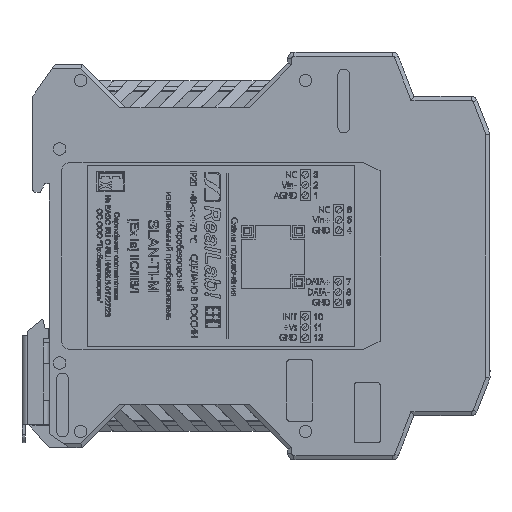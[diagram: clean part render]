
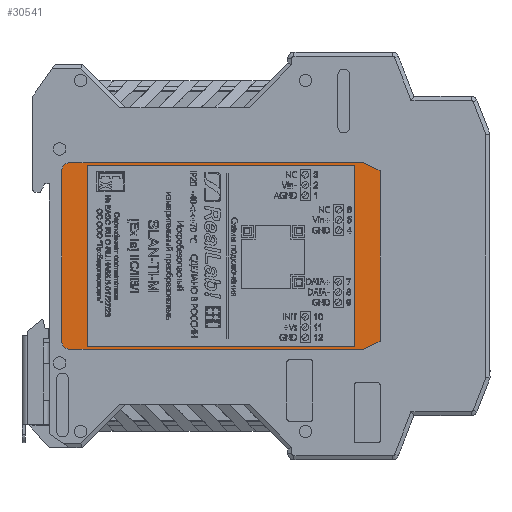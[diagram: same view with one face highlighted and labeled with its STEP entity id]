
A CAD part, front view. The second image highlights one B-rep face of the part: STEP entity #30541.
In plain terms, the highlighted planar face has unit normal (0, -1, 0).
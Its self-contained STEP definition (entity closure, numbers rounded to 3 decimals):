
#30541=ADVANCED_FACE('',(#88708,#88710),#88712,.T.);
#88708=FACE_BOUND('',#88709,.T.);
#88709=EDGE_LOOP('',(#143005,#143006,#143007,#143008,#143009,#143010,#143011,#143012));
#88710=FACE_BOUND('',#88711,.T.);
#88711=EDGE_LOOP('',(#143013,#143014,#143015,#143016));
#88712=PLANE('',#88713);
#88713=AXIS2_PLACEMENT_3D('',#88714,#88715,#88716);
#88714=CARTESIAN_POINT('',(105.362,0.2,-1.512));
#88715=DIRECTION('',(0.,-1.,0.));
#88716=DIRECTION('',(0.,0.,-1.));
#143005=ORIENTED_EDGE('',*,*,#183251,.T.);
#143006=ORIENTED_EDGE('',*,*,#183252,.T.);
#143007=ORIENTED_EDGE('',*,*,#183253,.T.);
#143008=ORIENTED_EDGE('',*,*,#183254,.T.);
#143009=ORIENTED_EDGE('',*,*,#183255,.T.);
#143010=ORIENTED_EDGE('',*,*,#183256,.F.);
#143011=ORIENTED_EDGE('',*,*,#183257,.T.);
#143012=ORIENTED_EDGE('',*,*,#183258,.F.);
#143013=ORIENTED_EDGE('',*,*,#176602,.T.);
#143014=ORIENTED_EDGE('',*,*,#176609,.T.);
#143015=ORIENTED_EDGE('',*,*,#176607,.T.);
#143016=ORIENTED_EDGE('',*,*,#176605,.T.);
#176602=EDGE_CURVE('',#201333,#201334,#201335,.T.);
#176605=EDGE_CURVE('',#201338,#201333,#201339,.T.);
#176607=EDGE_CURVE('',#201341,#201338,#201342,.T.);
#176609=EDGE_CURVE('',#201334,#201341,#201344,.T.);
#183251=EDGE_CURVE('',#211334,#211335,#211336,.T.);
#183252=EDGE_CURVE('',#211335,#211337,#211338,.T.);
#183253=EDGE_CURVE('',#211337,#211339,#211340,.T.);
#183254=EDGE_CURVE('',#211339,#211341,#211342,.T.);
#183255=EDGE_CURVE('',#211341,#211343,#211344,.T.);
#183256=EDGE_CURVE('',#211345,#211343,#211346,.T.);
#183257=EDGE_CURVE('',#211345,#211347,#211348,.T.);
#183258=EDGE_CURVE('',#211334,#211347,#211349,.T.);
#201333=VERTEX_POINT('',#245008);
#201334=VERTEX_POINT('',#245009);
#201335=LINE('',#245010,#245011);
#201338=VERTEX_POINT('',#245019);
#201339=LINE('',#245020,#245021);
#201341=VERTEX_POINT('',#245026);
#201342=LINE('',#245027,#245028);
#201344=LINE('',#245033,#245034);
#211334=VERTEX_POINT('',#270501);
#211335=VERTEX_POINT('',#270502);
#211336=LINE('',#270503,#270504);
#211337=VERTEX_POINT('',#270506);
#211338=LINE('',#270507,#270508);
#211339=VERTEX_POINT('',#270510);
#211340=LINE('',#270511,#270512);
#211341=VERTEX_POINT('',#270514);
#211342=LINE('',#270515,#270516);
#211343=VERTEX_POINT('',#270518);
#211344=LINE('',#270519,#270520);
#211345=VERTEX_POINT('',#270522);
#211346=CIRCLE('',#270523,2.);
#211347=VERTEX_POINT('',#270527);
#211348=LINE('',#270528,#270529);
#211349=CIRCLE('',#270531,2.);
#245008=CARTESIAN_POINT('',(75.662,0.2,20.488));
#245009=CARTESIAN_POINT('',(75.662,0.2,-23.512));
#245010=CARTESIAN_POINT('',(75.662,0.2,20.488));
#245011=VECTOR('',#245012,1.);
#245012=DIRECTION('',(0.,0.,-1.));
#245019=CARTESIAN_POINT('',(10.662,0.2,20.488));
#245020=CARTESIAN_POINT('',(10.662,0.2,20.488));
#245021=VECTOR('',#245022,1.);
#245022=DIRECTION('',(1.,0.,0.));
#245026=CARTESIAN_POINT('',(10.662,0.2,-23.512));
#245027=CARTESIAN_POINT('',(10.662,0.2,-23.512));
#245028=VECTOR('',#245029,1.);
#245029=DIRECTION('',(0.,0.,1.));
#245033=CARTESIAN_POINT('',(75.662,0.2,-23.512));
#245034=VECTOR('',#245035,1.);
#245035=DIRECTION('',(-1.,0.,0.));
#270501=CARTESIAN_POINT('',(6.512,0.2,-24.162));
#270502=CARTESIAN_POINT('',(77.812,0.2,-24.162));
#270503=CARTESIAN_POINT('',(6.512,0.2,-24.162));
#270504=VECTOR('',#270505,1.);
#270505=DIRECTION('',(1.,0.,0.));
#270506=CARTESIAN_POINT('',(81.812,0.2,-22.162));
#270507=CARTESIAN_POINT('',(77.812,0.2,-24.162));
#270508=VECTOR('',#270509,1.);
#270509=DIRECTION('',(0.894,0.,0.447));
#270510=CARTESIAN_POINT('',(81.812,0.2,19.138));
#270511=CARTESIAN_POINT('',(81.812,0.2,-22.162));
#270512=VECTOR('',#270513,1.);
#270513=DIRECTION('',(0.,0.,1.));
#270514=CARTESIAN_POINT('',(77.812,0.2,21.138));
#270515=CARTESIAN_POINT('',(81.812,0.2,19.138));
#270516=VECTOR('',#270517,1.);
#270517=DIRECTION('',(-0.894,0.,0.447));
#270518=CARTESIAN_POINT('',(6.512,0.2,21.138));
#270519=CARTESIAN_POINT('',(77.812,0.2,21.138));
#270520=VECTOR('',#270521,1.);
#270521=DIRECTION('',(-1.,0.,0.));
#270522=CARTESIAN_POINT('',(4.512,0.2,19.138));
#270523=AXIS2_PLACEMENT_3D('',#270524,#270525,#270526);
#270524=CARTESIAN_POINT('',(6.512,0.2,19.138));
#270525=DIRECTION('',(0.,1.,0.));
#270526=DIRECTION('',(-1.,0.,0.));
#270527=CARTESIAN_POINT('',(4.512,0.2,-22.162));
#270528=CARTESIAN_POINT('',(4.512,0.2,19.138));
#270529=VECTOR('',#270530,1.);
#270530=DIRECTION('',(0.,0.,-1.));
#270531=AXIS2_PLACEMENT_3D('',#270532,#270533,#270534);
#270532=CARTESIAN_POINT('',(6.512,0.2,-22.162));
#270533=DIRECTION('',(0.,1.,0.));
#270534=DIRECTION('',(0.,0.,-1.));
